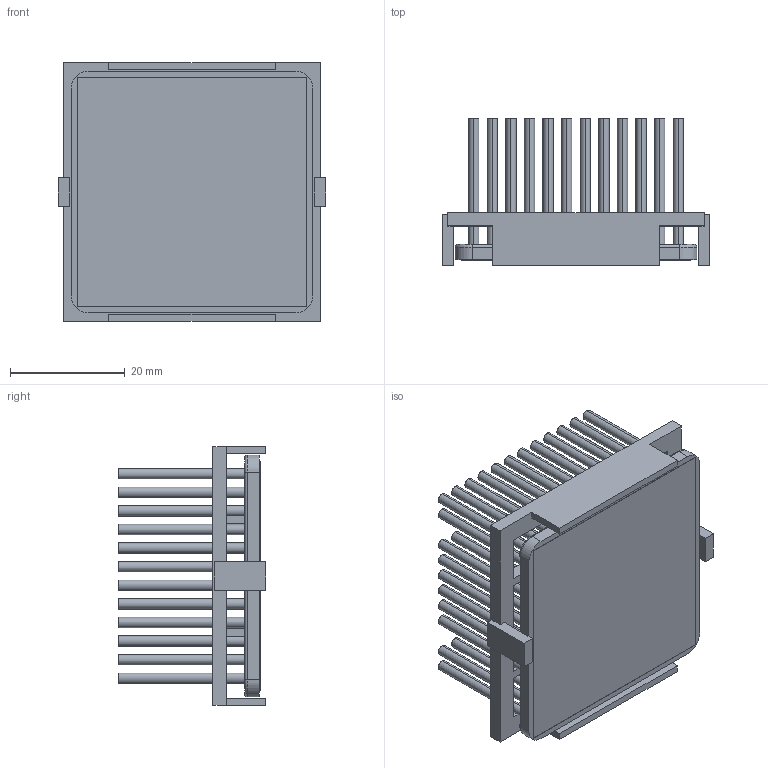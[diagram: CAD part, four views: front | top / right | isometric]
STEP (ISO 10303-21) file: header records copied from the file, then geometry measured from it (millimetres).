
FILE_DESCRIPTION (( 'STEP AP214' ), '1' );
FILE_NAME ('INM42.5002-25PCU-2.6O.STEP', '2023-02-28T00:28:09', ( '' ), ( '' ), 'SwSTEP 2.0', 'SolidWorks 2020', '' );
FILE_SCHEMA (( 'AUTOMOTIVE_DESIGN' ));
Length unit declared in the file: inch
Products named in the file (1): INM42.5002-25PCU-2.6O
Bounding box: 46.7 x 25.7 x 45.1 mm (x, y, z)
Volume: 14524.9 mm3; surface area: 27342.8 mm2
Topology: 3 solids, 3 shells, 486 faces, 1024 edges, 680 vertices
Faces by surface type: cylinder 280, plane 202, torus 4
Entity records: 19652 total; most frequent: DIRECTION 2562, CARTESIAN_POINT 2191, ORIENTED_EDGE 2048, AXIS2_PLACEMENT_3D 1051, EDGE_CURVE 1024, VERTEX_POINT 680, EDGE_LOOP 624, CIRCLE 564
